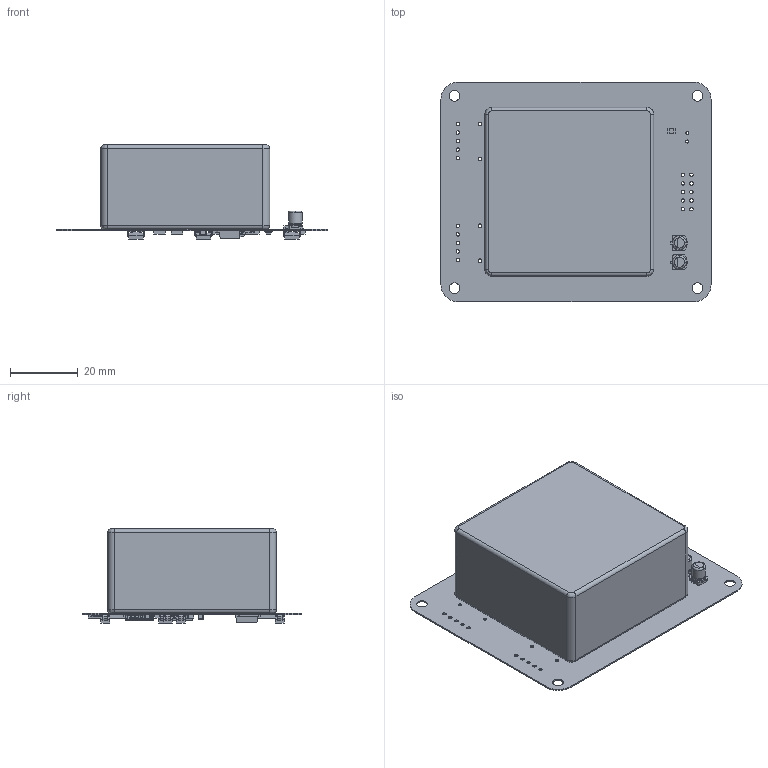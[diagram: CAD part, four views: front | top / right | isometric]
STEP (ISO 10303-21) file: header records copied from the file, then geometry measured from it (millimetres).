
FILE_DESCRIPTION((''),'2;1');
FILE_NAME('PCB1_ASM','2024-10-20T14:51:34',('Admin'),(''),'CREO PARAMETRIC BY PTC INC, 2020053','CREO PARAMETRIC BY PTC INC, 2020053','');
FILE_SCHEMA(('CONFIG_CONTROL_DESIGN'));
Length unit declared in the file: millimetre
Products named in the file (120): OPEN_CASCADE_STEP_TRANSLATO-166; BOARD_ASM; 6299286944_1; 6299286944_2; 6299286944_3; 6299286944_4; 6299286944_5; 6299286944_6; 6299286944_7; 6299286944_8; 6299286944_9; 6299286944_10; 6299286944_11; 6299286944_12; 6299286944_13; 6299286944_14; 6299286944_15; 6299286944_16; 6299286944_ASM; U3_ASM; 78M05C_1; 78M05C_2; 78M05C_3; 78M05C_4; 78M05C_5; 78M05C_ASM; U2_ASM; 6299289824_1; 6299289824_2; 6299289824_3; 6299289824_4; 6299289824_5; 6299289824_6; 6299289824_7; 6299289824_8; 6299289824_9; 6299289824_10; 6299289824_11; 6299289824_12; 6299289824_13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
Assembly tree (164 placements, depth 6):
  PCB1_ASM
    PCB_ASM
      BOARD_ASM
        OPEN_CASCADE_STEP_TRANSLATO-166
      U3_ASM
        6299286944_ASM
          6299286944_1
          6299286944_2
          6299286944_3
          6299286944_4
          6299286944_5
          6299286944_6
          6299286944_7
          6299286944_8
          6299286944_9
          6299286944_10
          6299286944_11
          6299286944_12
          6299286944_13
          6299286944_14
          6299286944_15
          6299286944_16
      U2_ASM
        78M05C_ASM
          78M05C_1
          78M05C_2
          78M05C_3
          78M05C_4
          78M05C_5
      U1_ASM
        6299289824_ASM
          6299289824_1
          6299289824_2
          6299289824_3
          6299289824_4
          6299289824_5
          6299289824_6
          6299289824_7
          6299289824_8
          6299289824_9
          6299289824_10
          6299289824_11
          6299289824_12
          6299289824_13
          6299289824_14
          6299289824_15
          6299289824_16
      R11_ASM
        6299082448_ASM
          EXTRUDED-18890
        6299082288_ASM  x2
          EXTRUDED-19082
      R10_ASM
        6299082448_ASM
          EXTRUDED-18890
        6299082288_ASM  x2
          EXTRUDED-19082
      R3_ASM
        6299082448_ASM
          EXTRUDED-18890
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Bounding box: 80 x 65 x 27.91 mm (x, y, z)
Volume: 65045.1 mm3; surface area: 21911.6 mm2
Topology: 129 solids, 129 shells, 1634 faces, 4004 edges, 2606 vertices
Faces by surface type: plane 1158, cylinder 422, sphere 28, torus 18, bspline 8
Entity records: 35014 total; most frequent: DIRECTION 6307, CARTESIAN_POINT 5985, ORIENTED_EDGE 5224, EDGE_CURVE 2612, AXIS2_PLACEMENT_3D 2219, VECTOR 1869, LINE 1869, VERTEX_POINT 1706
